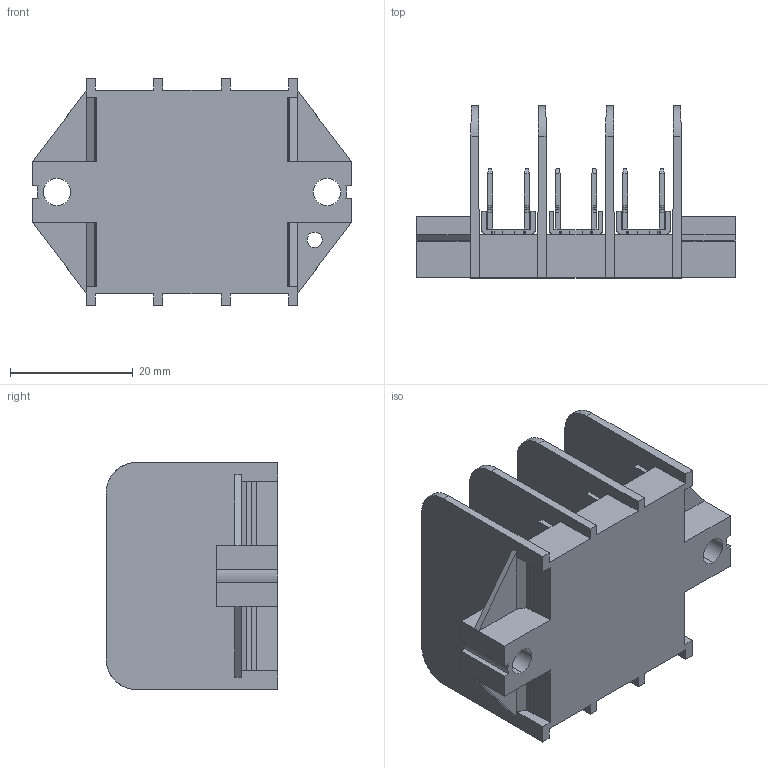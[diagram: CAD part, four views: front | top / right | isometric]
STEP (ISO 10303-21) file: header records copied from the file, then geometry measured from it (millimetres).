
FILE_DESCRIPTION (( 'STEP AP203' ), '1' );
FILE_NAME ('308-PA-102-03.STEP', '2018-05-23T21:33:24', ( '' ), ( '' ), 'SwSTEP 2.0', 'SolidWorks 2016', '' );
FILE_SCHEMA (( 'CONFIG_CONTROL_DESIGN' ));
Length unit declared in the file: millimetre
Products named in the file (1): 308-PA-102-03
Bounding box: 52 x 28 x 37 mm (x, y, z)
Volume: 14386.1 mm3; surface area: 13860.1 mm2
Topology: 1 solids, 1 shells, 833 faces, 2370 edges, 1524 vertices
Faces by surface type: plane 553, cylinder 274, bspline 6
Entity records: 27801 total; most frequent: CARTESIAN_POINT 5982, ORIENTED_EDGE 4740, DIRECTION 4296, EDGE_CURVE 2370, VECTOR 1804, LINE 1804, VERTEX_POINT 1524, AXIS2_PLACEMENT_3D 1246
